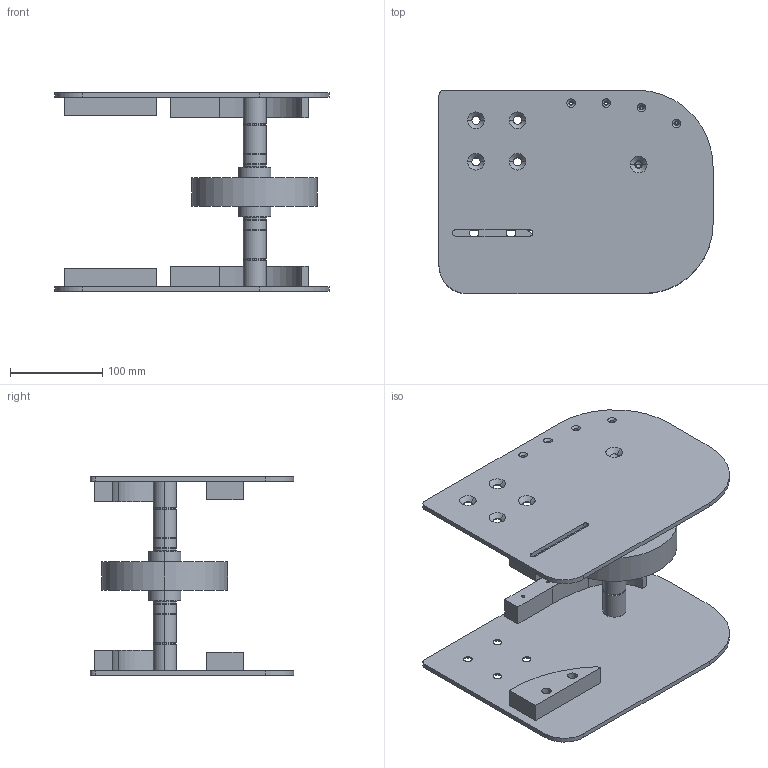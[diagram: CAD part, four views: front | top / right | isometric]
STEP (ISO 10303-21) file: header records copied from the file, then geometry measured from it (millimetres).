
FILE_DESCRIPTION (( 'STEP AP214' ), '1' );
FILE_NAME ('2000.750.200-1S.STEP', '2021-09-20T14:39:39', ( '' ), ( '' ), 'SwSTEP 2.0', 'SolidWorks 2018', '' );
FILE_SCHEMA (( 'AUTOMOTIVE_DESIGN' ));
Length unit declared in the file: millimetre
Products named in the file (8): 2000.001.210S; 2000.001.016; 2000.750.200-1S; 2000.325.003; 2000.001.211S; 2000.001.015-1; 2000.325.206S; 2000.750.201-1
Assembly tree (10 placements, depth 2):
  2000.750.200-1S
    2000.750.201-1
    2000.001.210S
    2000.001.016  x2
    2000.001.015-1  x2
    2000.001.211S
    2000.325.206S
    2000.325.003  x2
Bounding box: 296.5 x 220 x 215 mm (x, y, z)
Volume: 1405462.8 mm3; surface area: 382170.2 mm2
Topology: 10 solids, 10 shells, 280 faces, 652 edges, 406 vertices
Faces by surface type: cylinder 138, plane 62, cone 48, torus 32
Entity records: 7466 total; most frequent: DIRECTION 1410, CARTESIAN_POINT 1161, ORIENTED_EDGE 1116, AXIS2_PLACEMENT_3D 595, EDGE_CURVE 558, VERTEX_POINT 346, CIRCLE 338, EDGE_LOOP 318
